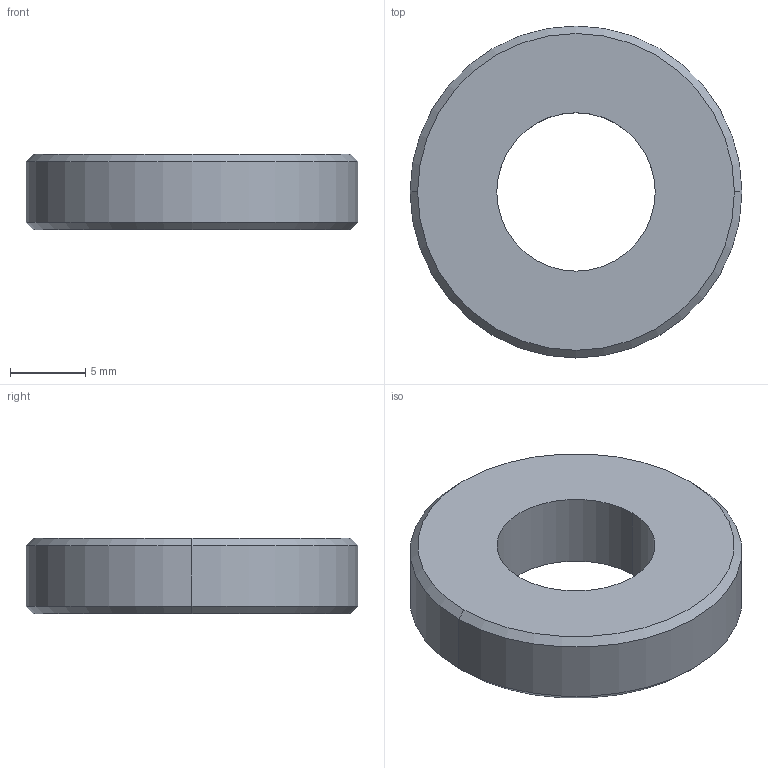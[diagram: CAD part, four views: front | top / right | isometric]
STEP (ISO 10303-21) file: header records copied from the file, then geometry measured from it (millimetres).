
FILE_DESCRIPTION(('CATIA V5 STEP Exchange'),'2;1');
FILE_NAME('D:\姚明阳\1、工装图纸\AGZ101 分体VDC阀压阀杆治具\AGZ101 分体VDC阀压阀杆治具（pdf+stp）\AGZ101.04_V1.stp','2023-08-29T05:13:21+00:00',('none'),('none'),'CATIA Version 5 Release 21 GA (IN-10)','CATIA V5 STEP AP214','none');
FILE_SCHEMA(('AUTOMOTIVE_DESIGN { 1 0 10303 214 1 1 1 1 }'));
Length unit declared in the file: millimetre
Products named in the file (1): AGZ101.04_V1
Bounding box: 22 x 22 x 5 mm (x, y, z)
Volume: 1450.7 mm3; surface area: 1056.5 mm2
Topology: 1 solids, 1 shells, 10 faces, 20 edges, 12 vertices
Faces by surface type: cylinder 4, cone 4, plane 2
Entity records: 268 total; most frequent: CARTESIAN_POINT 41, ORIENTED_EDGE 40, DIRECTION 36, AXIS2_PLACEMENT_3D 21, EDGE_CURVE 20, CIRCLE 12, EDGE_LOOP 12, VERTEX_POINT 12
